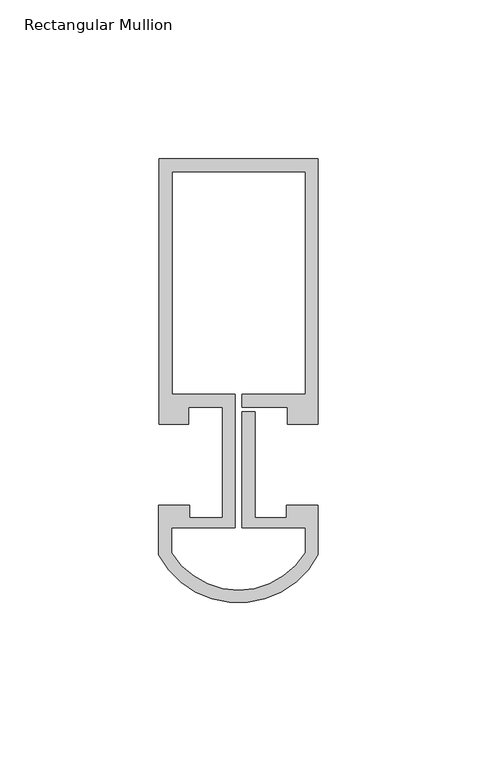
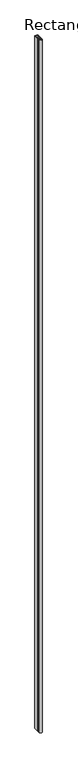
"""IFC4 building model written with IfcOpenShell, lengths in millimetres: member geometry, Rectangular Mullion : Reynaers_CW-50_Transom-Transom_Horizontal_83.5mm_Facecap-07."""

from ifc_helpers import new_model, si_unit, point, frame, frame_2d, origin, place, context, project, spatial, polyline, circle_curve, trimmed, segment, composite_curve, outline, extrude, source, transform, mapped, element, save


def rectangular_mullion_d2fe4da0(model_context):
    return source(origin(), model_context, "Body", "SweptSolid", [
        extrude(outline(composite_curve([segment(polyline([(25.1995941, 12.7331291), (15.499, 12.7331291), (15.499, 18.1331291), (1.2995941, 18.1331291), (1.2995941, 22.1331291), (21.1995941, 22.1331291), (21.1995941, 92.2331291), (-20.8004059, 92.2331291), (-20.8004059, 22.1331291), (-0.9004059, 22.1331291), (-0.9004059, -19.7331291), (-20.960579, -19.7331291), (-20.960579, -27.7331291)]), True, "CONTINUOUS"), segment(trimmed(circle_curve(frame_2d((0.1195075, -14.5934909)), 24.8398901), [point((-20.960579, -27.7331291))], [point((21.1995941, -27.7331291))], True, "CARTESIAN"), True, "CONTINUOUS"), segment(polyline([(21.1995941, -27.7331291), (21.1995941, -19.7331291), (1.2995941, -19.7331291), (1.2995941, 16.7615089), (5.2995941, 16.7615089), (5.2995941, -16.7331291), (15.2996495, -16.7331291), (15.2996495, -12.7331291), (25.1995941, -12.7331291), (25.1995941, -28.2927678)]), True, "CONTINUOUS"), segment(trimmed(circle_curve(frame_2d((0.1195075, -15.0907737)), 28.3426074), [point((25.1995941, -28.2927678))], [point((-24.960579, -28.2927678))], False, "CARTESIAN"), True, "CONTINUOUS"), segment(polyline([(-24.960579, -28.2927678), (-24.960579, -12.7331291), (-15.2996495, -12.7331291), (-15.2996495, -16.7331291), (-4.9004059, -16.7331291), (-4.9004059, 18.1331291), (-15.499, 18.1331291), (-15.499, 12.7331291), (-24.8004059, 12.7331291), (-24.8004059, 96.2331291), (25.1995941, 96.2331291), (25.1995941, 12.7331291)]), True, "CONTINUOUS")], self_intersect=False)), frame((0.0, 0.0, -12000.0), z_axis=(0.0, 0.0, 1.0), x_axis=(1.0, 0.0, 0.0)), (0.0, 0.0, 1.0), 12000.0),
    ])


if __name__ == "__main__":
    model = new_model("IFC4")
    model_context = context("Model", 3, world=origin())
    ifc_project = project(units=[si_unit("LENGTHUNIT", "METRE", prefix="MILLI")], contexts=[model_context])
    site = spatial("IfcSite", under=ifc_project)
    building = spatial("IfcBuilding", under=site)
    placement = place(None, origin())
    rectangular_mullion_shape = rectangular_mullion_d2fe4da0(model_context)
    element("IfcMember", 1, ObjectType="Rectangular Mullion : Reynaers_CW-50_Transom-Transom_Horizontal_83.5mm_Facecap-07", at=placement, inside=building, context=model_context, shape_type="MappedRepresentation", body=[
        mapped(rectangular_mullion_shape, transform((0.0, 0.0, 0.0), x_axis=(1.0, 0.0, 0.0), y_axis=(0.0, 1.0, 0.0), z_axis=(0.0, 0.0, 1.0))),
    ])
    save(model, "model.ifc")
